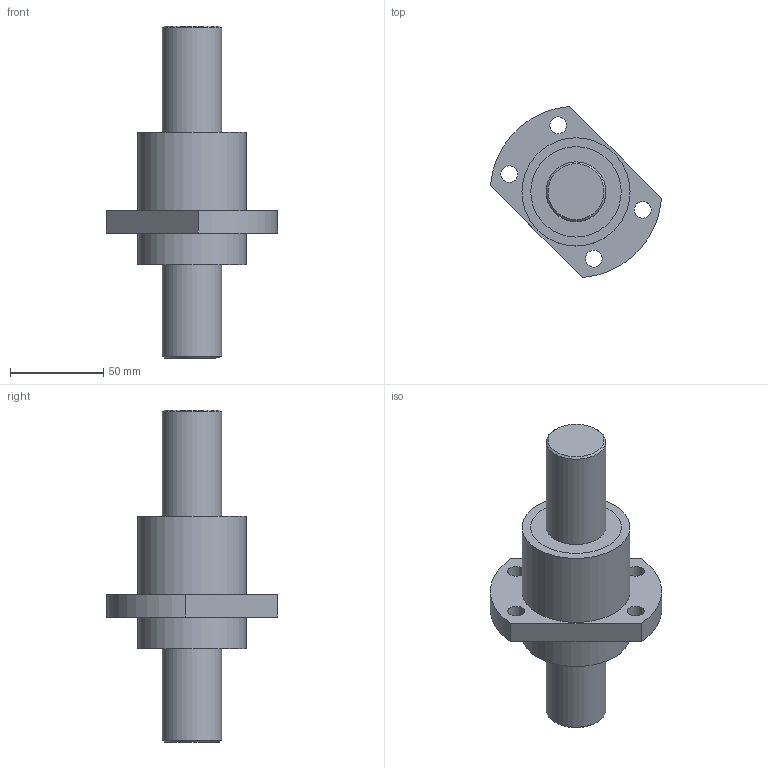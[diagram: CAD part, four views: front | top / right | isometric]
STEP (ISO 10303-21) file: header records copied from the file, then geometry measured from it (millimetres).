
FILE_DESCRIPTION(/* description */ (''),/* implementation_level */ '2;1');
FILE_NAME(/* name */ 'SFY3264.stp',/* time_stamp */ '2014-02-21T10:36:38+08:00',/* author */ (''),/* organization */ (''),/* preprocessor_version */ 'ST-DEVELOPER v11',/* originating_system */ 'SIEMENS UGS NX 6.0',/* authorisation */ '');
FILE_SCHEMA (('CONFIG_CONTROL_DESIGN'));
Length unit declared in the file: millimetre
Products named in the file (1): fann4717bkd1
Bounding box: 91.74 x 91.74 x 178 mm (x, y, z)
Volume: 299971.8 mm3; surface area: 59274.1 mm2
Topology: 4 solids, 4 shells, 48 faces, 88 edges, 60 vertices
Faces by surface type: cylinder 24, plane 22, cone 2
Full cylindrical faces by diameter (mm): 9 x4, 32 x4, 42.7 x4, 48.5 x4, 50 x4, 58 x2
Entity records: 1152 total; most frequent: DIRECTION 208, CARTESIAN_POINT 162, ORIENTED_EDGE 116, AXIS2_PLACEMENT_3D 100, EDGE_LOOP 98, FACE_BOUND 92, EDGE_CURVE 58, VERTEX_POINT 54
